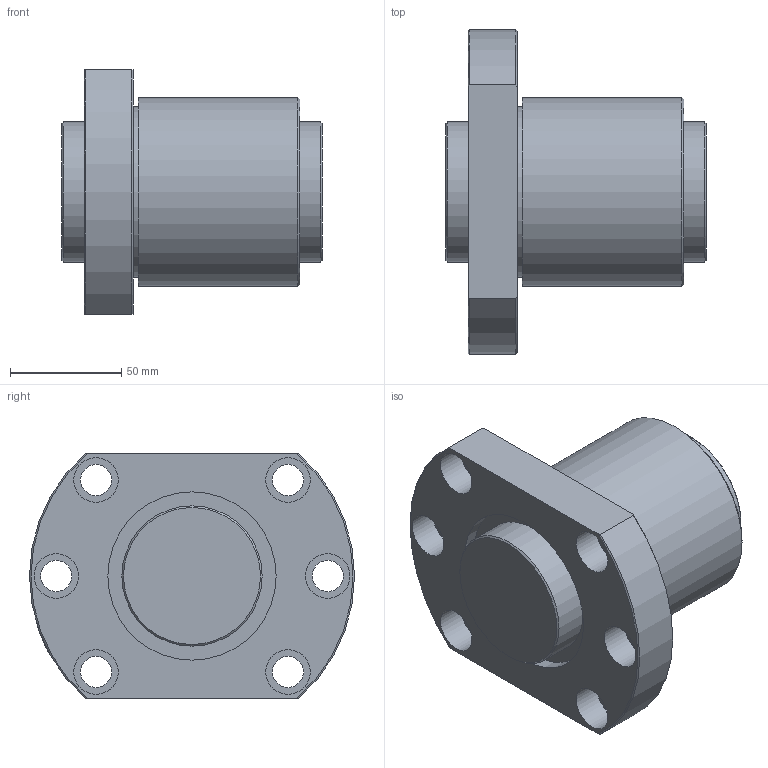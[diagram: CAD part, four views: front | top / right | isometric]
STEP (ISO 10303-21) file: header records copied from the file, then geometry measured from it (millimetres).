
FILE_DESCRIPTION(/* description */ ('STEP AP203'),/* implementation_level */ '2;1');
FILE_NAME(/* name */ 'DK6310-4RRG1+117LC0_000',/* time_stamp */ '2025-01-13T09:32:07+01:00',/* author */ ('License CC BY-ND 4.0'),/* organization */ ('CADENAS'),/* preprocessor_version */ 'ST-DEVELOPER v19.3',/* originating_system */ 'PARTsolutions',/* authorisation */ ' ');
FILE_SCHEMA (('CONFIG_CONTROL_DESIGN'));
Length unit declared in the file: millimetre
Products named in the file (3): DK6310-4RRG1+117LC0_000; DK 6310-4RR011700 Shaft; DK 6310-4RR0Nut
Assembly tree (2 placements, depth 2):
  DK6310-4RRG1+117LC0_000
    DK 6310-4RR011700 Shaft
    DK 6310-4RR0Nut
Bounding box: 117 x 146 x 110 mm (x, y, z)
Volume: 749974.5 mm3; surface area: 109352.7 mm2
Topology: 2 solids, 2 shells, 46 faces, 94 edges, 62 vertices
Faces by surface type: cylinder 21, plane 16, cone 9
Full cylindrical faces by diameter (mm): 8.566 x1, 14 x6, 20 x6, 63 x2, 75.6 x2, 76.5 x1, 85 x1
Entity records: 1222 total; most frequent: CARTESIAN_POINT 226, DIRECTION 204, ORIENTED_EDGE 134, AXIS2_PLACEMENT_3D 98, EDGE_LOOP 96, FACE_BOUND 96, EDGE_CURVE 67, VERTEX_POINT 59
